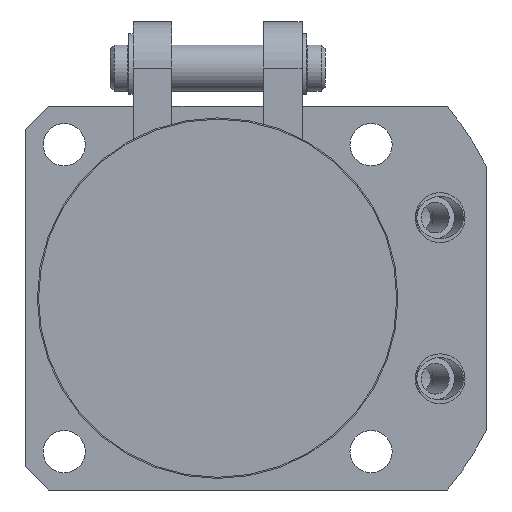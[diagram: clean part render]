
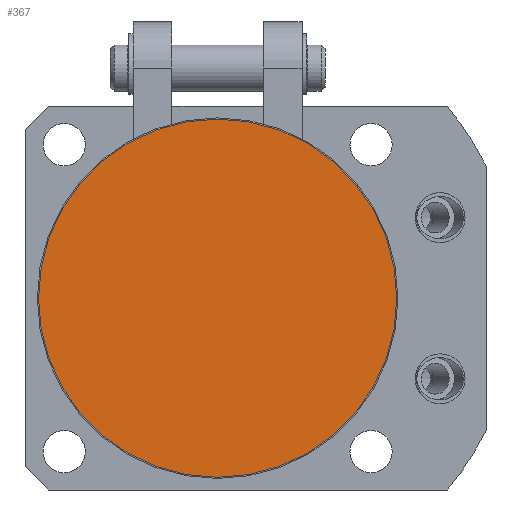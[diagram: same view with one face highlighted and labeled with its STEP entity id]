
A CAD part, front view. The second image highlights one B-rep face of the part: STEP entity #367.
In plain terms, the highlighted planar face has unit normal (0, -1, 0).
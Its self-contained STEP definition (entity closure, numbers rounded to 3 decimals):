
#367 = ADVANCED_FACE( '', ( #700 ), #701, .T. );
#700 = FACE_OUTER_BOUND( '', #1360, .T. );
#701 = PLANE( '', #1361 );
#1360 = EDGE_LOOP( '', ( #2175 ) );
#1361 = AXIS2_PLACEMENT_3D( '', #2176, #2177, #2178 );
#2175 = ORIENTED_EDGE( '', *, *, #4110, .T. );
#2176 = CARTESIAN_POINT( '', ( 0., -47., 0. ) );
#2177 = DIRECTION( '', ( 0., -1., 0. ) );
#2178 = DIRECTION( '', ( 1., 0., 0. ) );
#4110 = EDGE_CURVE( '', #4843, #4843, #4844, .T. );
#4843 = VERTEX_POINT( '', #6059 );
#4844 = CIRCLE( '', #6060, 23.35 );
#6059 = CARTESIAN_POINT( '', ( -23.35, -47., 0. ) );
#6060 = AXIS2_PLACEMENT_3D( '', #7554, #7555, #7556 );
#7554 = CARTESIAN_POINT( '', ( 0., -47., 0. ) );
#7555 = DIRECTION( '', ( 0., -1., 0. ) );
#7556 = DIRECTION( '', ( -1., 0., 0. ) );
